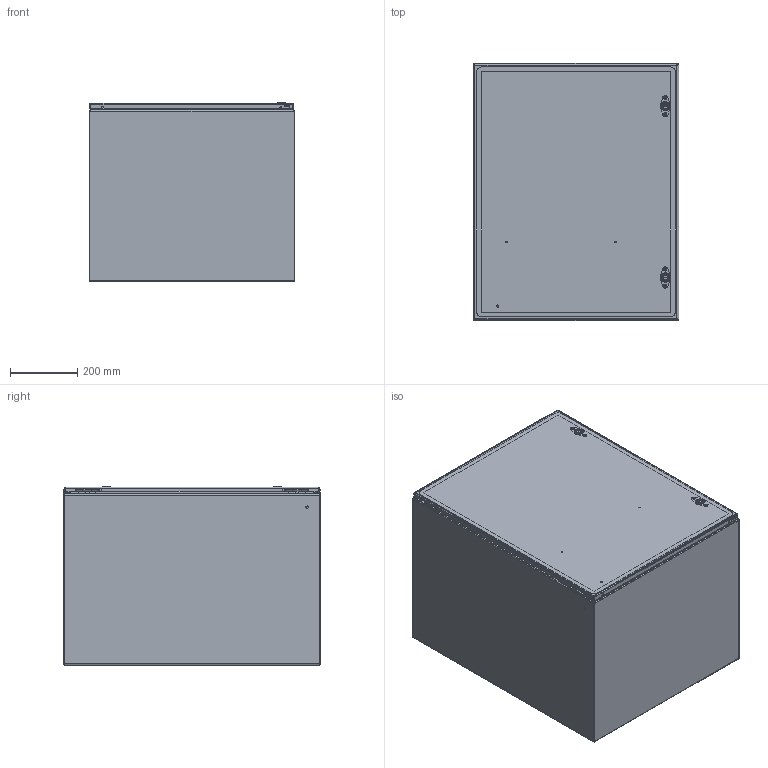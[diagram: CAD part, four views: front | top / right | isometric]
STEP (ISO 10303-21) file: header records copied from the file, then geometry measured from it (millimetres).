
FILE_DESCRIPTION (( 'STEP AP203' ), '1' );
FILE_NAME ('csd302420.STEP', '2012-06-11T15:02:33', ( 'User' ), ( 'Pentair Inc' ), 'SwSTEP 2.0', 'SolidWorks 2010', '' );
FILE_SCHEMA (( 'CONFIG_CONTROL_DESIGN' ));
Length unit declared in the file: inch
Products named in the file (28): 87937939_assy; 87937979_weldment; 87937915; 99401225; 87931362_87931362; 64101001; 64201001; 87541994_Installed Height; 87541995; 64202001; 64210001; 64203001; 87927840_87927840; 87932903; 64138001; 89057565; 87543027; 89076399; 89076193; 89056623; 87929507; 87929767; 87929769_Installed on Pin; csd302420; 89046141; 87756264_default; 64406014_default; 23271001_After Weld
Assembly tree (45 placements, depth 4):
  csd302420
    87543027  x2
    89076399  x2
      89076193
      89056623
    87929507  x2
      87929769_Installed on Pin
      87929767
    89046141
      64406014_default  x2
      23271001_After Weld  x4
      87756264_default
      99401225
    87937939_assy
      87932903  x4
      64101001  x2
        64201001
        64203001
        64210001
        64202001
        87927840_87927840
        87541994_Installed Height
        87541995
      64138001  x2
      89057565
      87937979_weldment
        87937915
        87931362_87931362  x6
        99401225
Bounding box: 609.6 x 762.3 x 528.7 mm (x, y, z)
Volume: 4652915.5 mm3; surface area: 5009704.2 mm2
Topology: 49 solids, 49 shells, 2331 faces, 5774 edges, 3496 vertices
Faces by surface type: plane 851, cylinder 712, bspline 504, cone 132, torus 124, sphere 8
Entity records: 45854 total; most frequent: CARTESIAN_POINT 15793, ORIENTED_EDGE 5814, DIRECTION 5149, EDGE_CURVE 2907, AXIS2_PLACEMENT_3D 1866, VERTEX_POINT 1798, LINE 1417, VECTOR 1417
